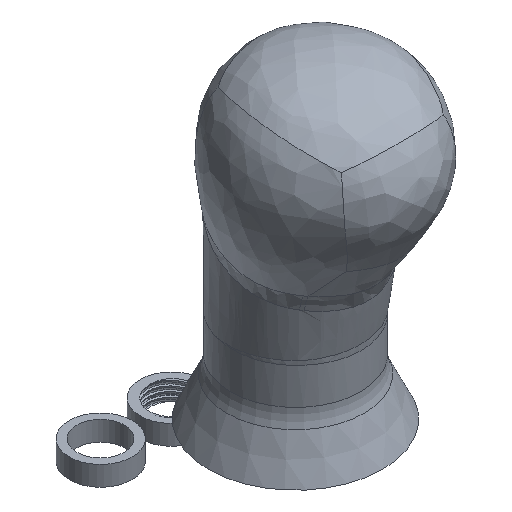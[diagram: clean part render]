
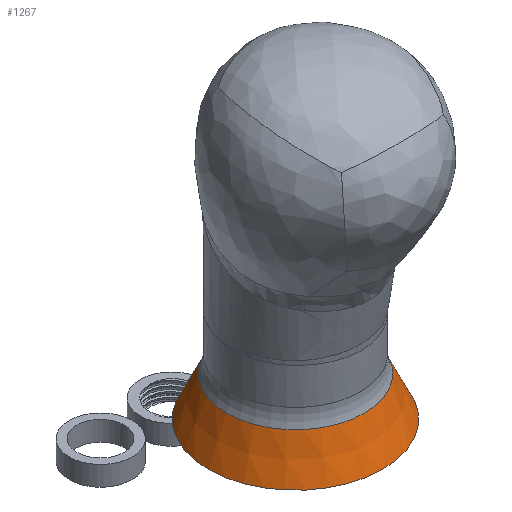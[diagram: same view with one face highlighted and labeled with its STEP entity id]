
A CAD part, isometric view. The second image highlights one B-rep face of the part: STEP entity #1267.
In plain terms, the highlighted conical face has half-angle 25 degrees and reference radius 16.5 mm.
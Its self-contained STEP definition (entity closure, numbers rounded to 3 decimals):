
#34=CONICAL_SURFACE('',#1352,16.5,0.436);
#92=FACE_OUTER_BOUND('',#156,.T.);
#156=EDGE_LOOP('',(#1037,#1038,#1039,#1040,#1041));
#203=CIRCLE('',#1350,17.437);
#204=CIRCLE('',#1351,17.437);
#205=CIRCLE('',#1353,22.096);
#380=LINE('',#8477,#415);
#415=VECTOR('',#1498,16.5);
#545=VERTEX_POINT('',#8470);
#546=VERTEX_POINT('',#8472);
#547=VERTEX_POINT('',#8476);
#731=EDGE_CURVE('',#545,#546,#203,.T.);
#732=EDGE_CURVE('',#546,#545,#204,.T.);
#733=EDGE_CURVE('',#546,#547,#380,.T.);
#734=EDGE_CURVE('',#547,#547,#205,.T.);
#1037=ORIENTED_EDGE('',*,*,#732,.F.);
#1038=ORIENTED_EDGE('',*,*,#733,.T.);
#1039=ORIENTED_EDGE('',*,*,#734,.T.);
#1040=ORIENTED_EDGE('',*,*,#733,.F.);
#1041=ORIENTED_EDGE('',*,*,#731,.F.);
#1267=ADVANCED_FACE('',(#92),#34,.T.);
#1350=AXIS2_PLACEMENT_3D('',#8473,#1492,#1493);
#1351=AXIS2_PLACEMENT_3D('',#8474,#1494,#1495);
#1352=AXIS2_PLACEMENT_3D('',#8475,#1496,#1497);
#1353=AXIS2_PLACEMENT_3D('',#8478,#1499,#1500);
#1492=DIRECTION('center_axis',(0.,0.,1.));
#1493=DIRECTION('ref_axis',(1.,0.,0.));
#1494=DIRECTION('center_axis',(0.,0.,1.));
#1495=DIRECTION('ref_axis',(1.,0.,0.));
#1496=DIRECTION('center_axis',(0.,0.,-1.));
#1497=DIRECTION('ref_axis',(1.,0.,0.));
#1498=DIRECTION('',(-0.423,0.,-0.906));
#1499=DIRECTION('center_axis',(0.,0.,1.));
#1500=DIRECTION('ref_axis',(1.,0.,0.));
#8470=CARTESIAN_POINT('',(17.437,5.6,25.991));
#8472=CARTESIAN_POINT('',(-17.437,5.6,25.991));
#8473=CARTESIAN_POINT('Origin',(0.,5.6,25.991));
#8474=CARTESIAN_POINT('Origin',(0.,5.6,25.991));
#8475=CARTESIAN_POINT('Origin',(0.,5.6,28.));
#8476=CARTESIAN_POINT('',(-22.096,5.6,16.));
#8477=CARTESIAN_POINT('',(-16.5,5.6,28.));
#8478=CARTESIAN_POINT('Origin',(0.,5.6,16.));
